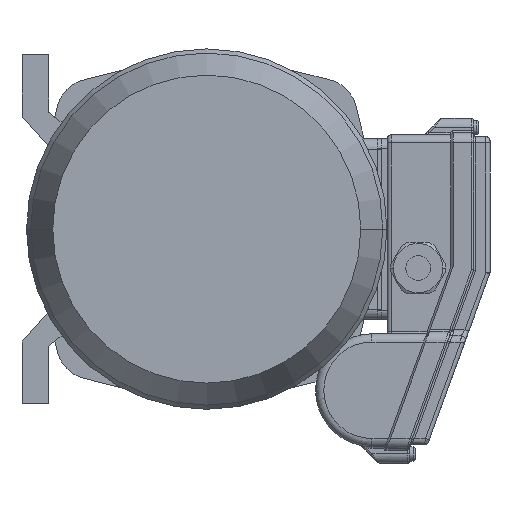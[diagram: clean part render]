
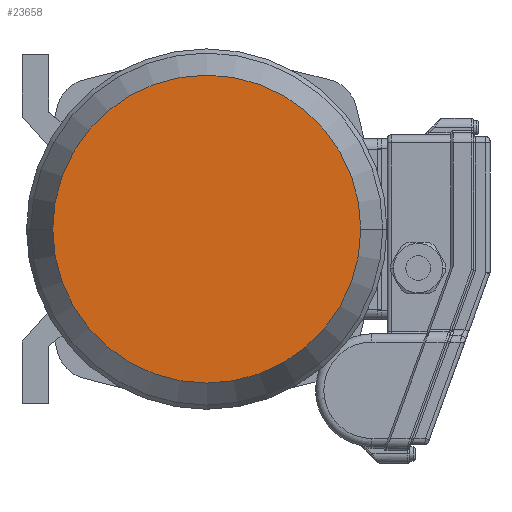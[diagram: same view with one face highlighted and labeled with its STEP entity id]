
A CAD part, front view. The second image highlights one B-rep face of the part: STEP entity #23658.
In plain terms, the highlighted planar face has unit normal (0, -1, 0) as drawn and (1, 0, 0) by its records, which use the part's own axes.
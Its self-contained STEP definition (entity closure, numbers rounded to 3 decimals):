
#17169=CARTESIAN_POINT('',(242.,0.,0.));
#17170=DIRECTION('',(-1.,0.,0.));
#17171=DIRECTION('',(0.,1.,0.));
#17172=AXIS2_PLACEMENT_3D('',#17169,#17170,#17171);
#17177=CARTESIAN_POINT('',(242.,0.,0.));
#17178=DIRECTION('',(1.,0.,0.));
#17179=DIRECTION('',(0.,1.,0.));
#17180=AXIS2_PLACEMENT_3D('',#17177,#17178,#17179);
#17871=CARTESIAN_POINT('',(242.,75.025,0.));
#17873=VERTEX_POINT('',#17871);
#17881=CARTESIAN_POINT('',(242.,-75.025,0.));
#17883=VERTEX_POINT('',#17881);
#23649=CARTESIAN_POINT('',(242.,0.,0.));
#23650=DIRECTION('',(1.,0.,0.));
#23651=DIRECTION('',(0.,-1.,0.));
#23652=AXIS2_PLACEMENT_3D('',#23649,#23650,#23651);
#23653=PLANE('',#23652);
#23654=ORIENTED_EDGE('',*,*,#23631,.T.);
#23655=ORIENTED_EDGE('',*,*,#23642,.F.);
#23656=EDGE_LOOP('',(#23654,#23655));
#23657=FACE_OUTER_BOUND('',#23656,.F.);
#17173=CIRCLE('',#17172,75.025);
#17181=CIRCLE('',#17180,75.025);
#23631=EDGE_CURVE('',#17873,#17883,#17173,.T.);
#23642=EDGE_CURVE('',#17873,#17883,#17181,.T.);
#23658=ADVANCED_FACE('',(#23657),#23653,.T.);
